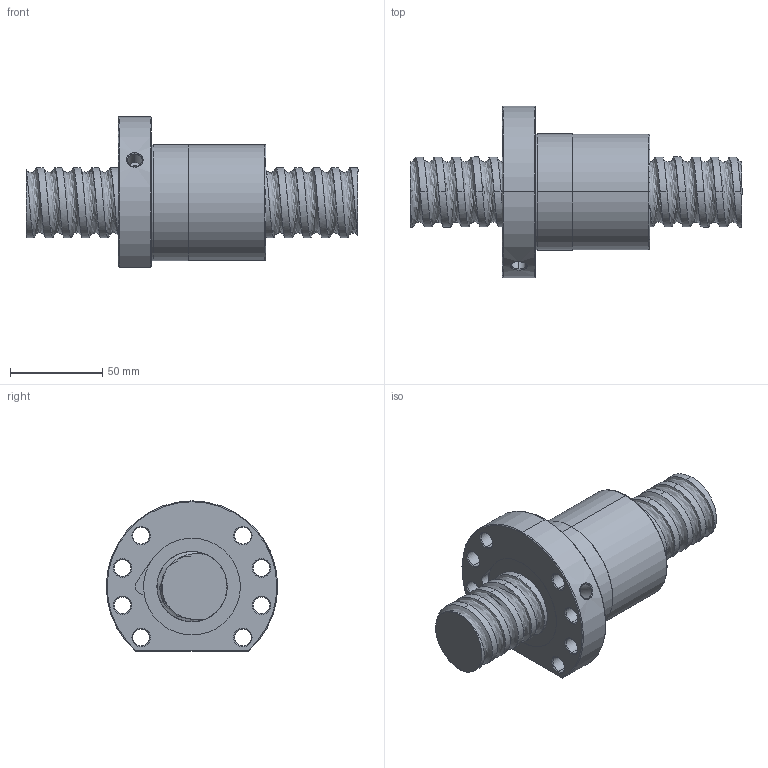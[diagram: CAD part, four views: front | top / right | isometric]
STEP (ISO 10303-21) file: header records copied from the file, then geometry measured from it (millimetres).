
FILE_DESCRIPTION (( 'STEP AP214' ), '1' );
FILE_NAME ('FSDC03810T5-F-B.STEP', '2010-06-25T11:58:44', ( 'XPAUTO' ), ( 'XPAUTO' ), 'SwSTEP 2.0', 'SolidWorks 2007', '' );
FILE_SCHEMA (( 'AUTOMOTIVE_DESIGN' ));
Length unit declared in the file: millimetre
Products named in the file (3): FSDC03810T5-F-B.sldasm-Part-1_預設; FSDC03810T5-F-B; FSDC03810T5-F-B.sldasm-Part-2_預設
Assembly tree (2 placements, depth 2):
  FSDC03810T5-F-B
    FSDC03810T5-F-B.sldasm-Part-1_預設
    FSDC03810T5-F-B.sldasm-Part-2_預設
Bounding box: 180 x 92.99 x 81.5 mm (x, y, z)
Volume: 385097.4 mm3; surface area: 68754.3 mm2
Topology: 2 solids, 2 shells, 138 faces, 343 edges, 214 vertices
Faces by surface type: cylinder 77, cone 32, plane 19, bspline 5, torus 5
Entity records: 26438 total; most frequent: CARTESIAN_POINT 23151, ORIENTED_EDGE 686, DIRECTION 641, EDGE_CURVE 343, AXIS2_PLACEMENT_3D 260, VERTEX_POINT 214, EDGE_LOOP 163, FACE_OUTER_BOUND 138
